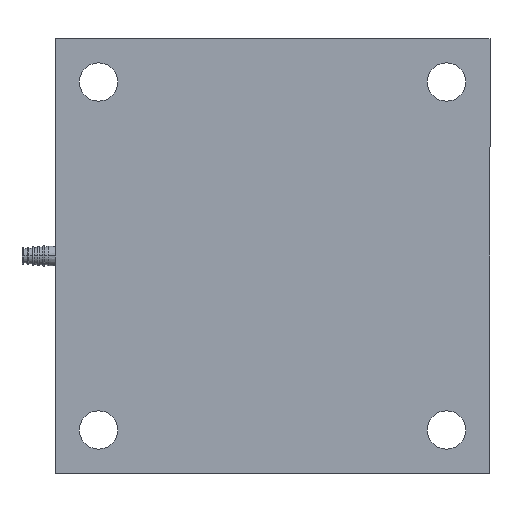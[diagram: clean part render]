
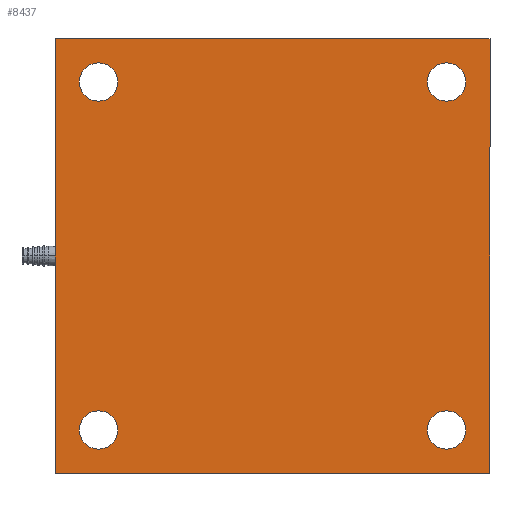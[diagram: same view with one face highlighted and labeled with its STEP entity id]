
A CAD part, front view. The second image highlights one B-rep face of the part: STEP entity #8437.
In plain terms, the highlighted planar face has unit normal (0, -1, 0).
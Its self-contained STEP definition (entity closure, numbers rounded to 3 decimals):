
#21 = DIRECTION ( 'NONE',  ( 0., 0., -1. ) ) ;
#50 = AXIS2_PLACEMENT_3D ( 'NONE', #7726, #6715, #6843 ) ;
#110 = EDGE_LOOP ( 'NONE', ( #8228, #5297 ) ) ;
#139 = LINE ( 'NONE', #12166, #4703 ) ;
#304 = DIRECTION ( 'NONE',  ( 0., 0., 1. ) ) ;
#320 = CARTESIAN_POINT ( 'NONE',  ( 125., 0., -125. ) ) ;
#393 = ORIENTED_EDGE ( 'NONE', *, *, #5112, .T. ) ;
#444 = CARTESIAN_POINT ( 'NONE',  ( 100., 0., -100. ) ) ;
#516 = PLANE ( 'NONE',  #4418 ) ;
#810 = ORIENTED_EDGE ( 'NONE', *, *, #8593, .F. ) ;
#955 = CIRCLE ( 'NONE', #50, 11. ) ;
#1062 = CIRCLE ( 'NONE', #9063, 11. ) ;
#1105 = DIRECTION ( 'NONE',  ( 0., -1., 0. ) ) ;
#1118 = CARTESIAN_POINT ( 'NONE',  ( 100., 0., -89. ) ) ;
#1221 = VECTOR ( 'NONE', #1843, 1000. ) ;
#1479 = VERTEX_POINT ( 'NONE', #12457 ) ;
#1513 = CARTESIAN_POINT ( 'NONE',  ( -100., 0., 111. ) ) ;
#1603 = LINE ( 'NONE', #13356, #13524 ) ;
#1758 = CARTESIAN_POINT ( 'NONE',  ( -125., 0., -125. ) ) ;
#1793 = ORIENTED_EDGE ( 'NONE', *, *, #5833, .F. ) ;
#1833 = DIRECTION ( 'NONE',  ( 0., 0., -1. ) ) ;
#1843 = DIRECTION ( 'NONE',  ( 0., 0., 1. ) ) ;
#1922 = VERTEX_POINT ( 'NONE', #1758 ) ;
#2427 = EDGE_CURVE ( 'NONE', #1479, #13991, #4500, .T. ) ;
#2801 = AXIS2_PLACEMENT_3D ( 'NONE', #444, #9991, #304 ) ;
#2860 = LINE ( 'NONE', #11674, #1221 ) ;
#2904 = CARTESIAN_POINT ( 'NONE',  ( -100., 0., -111. ) ) ;
#2914 = EDGE_CURVE ( 'NONE', #13991, #1479, #1062, .T. ) ;
#2994 = EDGE_CURVE ( 'NONE', #9442, #6975, #139, .T. ) ;
#3014 = CIRCLE ( 'NONE', #13073, 11. ) ;
#3346 = VERTEX_POINT ( 'NONE', #5775 ) ;
#3372 = CARTESIAN_POINT ( 'NONE',  ( -100., 0., -100. ) ) ;
#3436 = EDGE_CURVE ( 'NONE', #7507, #3995, #955, .T. ) ;
#3551 = DIRECTION ( 'NONE',  ( 1., 0., 0. ) ) ;
#3877 = EDGE_CURVE ( 'NONE', #3995, #7507, #10214, .T. ) ;
#3916 = ORIENTED_EDGE ( 'NONE', *, *, #7461, .F. ) ;
#3995 = VERTEX_POINT ( 'NONE', #6353 ) ;
#4132 = EDGE_LOOP ( 'NONE', ( #11531, #10647 ) ) ;
#4351 = CARTESIAN_POINT ( 'NONE',  ( -100., 0., -100. ) ) ;
#4418 = AXIS2_PLACEMENT_3D ( 'NONE', #4960, #7109, #9261 ) ;
#4500 = CIRCLE ( 'NONE', #8638, 11. ) ;
#4547 = VERTEX_POINT ( 'NONE', #13195 ) ;
#4611 = CARTESIAN_POINT ( 'NONE',  ( 100., 0., 100. ) ) ;
#4684 = LINE ( 'NONE', #7932, #5077 ) ;
#4699 = DIRECTION ( 'NONE',  ( 0., 0., -1. ) ) ;
#4703 = VECTOR ( 'NONE', #4699, 1000. ) ;
#4732 = DIRECTION ( 'NONE',  ( 0., -1., 0. ) ) ;
#4879 = FACE_BOUND ( 'NONE', #4132, .T. ) ;
#4960 = CARTESIAN_POINT ( 'NONE',  ( 0., 0., 0. ) ) ;
#5077 = VECTOR ( 'NONE', #12291, 1000. ) ;
#5112 = EDGE_CURVE ( 'NONE', #12353, #13181, #9425, .T. ) ;
#5297 = ORIENTED_EDGE ( 'NONE', *, *, #2914, .T. ) ;
#5528 = ORIENTED_EDGE ( 'NONE', *, *, #2994, .F. ) ;
#5563 = ORIENTED_EDGE ( 'NONE', *, *, #6951, .T. ) ;
#5775 = CARTESIAN_POINT ( 'NONE',  ( -125., 0., 125. ) ) ;
#5791 = CIRCLE ( 'NONE', #8083, 11. ) ;
#5833 = EDGE_CURVE ( 'NONE', #3346, #9442, #1603, .T. ) ;
#5964 = FACE_BOUND ( 'NONE', #9544, .T. ) ;
#6353 = CARTESIAN_POINT ( 'NONE',  ( -100., 0., 89. ) ) ;
#6486 = CIRCLE ( 'NONE', #2801, 11. ) ;
#6633 = CARTESIAN_POINT ( 'NONE',  ( -100., 0., 100. ) ) ;
#6715 = DIRECTION ( 'NONE',  ( 0., -1., 0. ) ) ;
#6843 = DIRECTION ( 'NONE',  ( 0., 0., -1. ) ) ;
#6915 = DIRECTION ( 'NONE',  ( 0., 0., -1. ) ) ;
#6951 = EDGE_CURVE ( 'NONE', #13181, #12353, #3014, .T. ) ;
#6975 = VERTEX_POINT ( 'NONE', #320 ) ;
#7021 = AXIS2_PLACEMENT_3D ( 'NONE', #6633, #1105, #21 ) ;
#7034 = EDGE_CURVE ( 'NONE', #6975, #1922, #4684, .T. ) ;
#7109 = DIRECTION ( 'NONE',  ( 0., -1., 0. ) ) ;
#7461 = EDGE_CURVE ( 'NONE', #10646, #4547, #6486, .T. ) ;
#7507 = VERTEX_POINT ( 'NONE', #1513 ) ;
#7669 = DIRECTION ( 'NONE',  ( 0., 1., 0. ) ) ;
#7726 = CARTESIAN_POINT ( 'NONE',  ( -100., 0., 100. ) ) ;
#7932 = CARTESIAN_POINT ( 'NONE',  ( -125., 0., -125. ) ) ;
#7989 = CARTESIAN_POINT ( 'NONE',  ( 125., 0., 125. ) ) ;
#8083 = AXIS2_PLACEMENT_3D ( 'NONE', #9111, #4732, #12479 ) ;
#8228 = ORIENTED_EDGE ( 'NONE', *, *, #2427, .T. ) ;
#8353 = EDGE_CURVE ( 'NONE', #4547, #10646, #5791, .T. ) ;
#8437 = ADVANCED_FACE ( 'NONE', ( #4879, #11181, #12331, #5964, #10322 ), #516, .T. ) ;
#8593 = EDGE_CURVE ( 'NONE', #1922, #3346, #2860, .T. ) ;
#8635 = ORIENTED_EDGE ( 'NONE', *, *, #7034, .F. ) ;
#8638 = AXIS2_PLACEMENT_3D ( 'NONE', #3372, #9899, #10690 ) ;
#8805 = ORIENTED_EDGE ( 'NONE', *, *, #8353, .F. ) ;
#8925 = DIRECTION ( 'NONE',  ( 0., 1., 0. ) ) ;
#9063 = AXIS2_PLACEMENT_3D ( 'NONE', #4351, #7669, #9395 ) ;
#9111 = CARTESIAN_POINT ( 'NONE',  ( 100., 0., -100. ) ) ;
#9261 = DIRECTION ( 'NONE',  ( 0., 0., -1. ) ) ;
#9373 = EDGE_LOOP ( 'NONE', ( #3916, #8805 ) ) ;
#9395 = DIRECTION ( 'NONE',  ( 0., 0., 1. ) ) ;
#9425 = CIRCLE ( 'NONE', #13749, 11. ) ;
#9442 = VERTEX_POINT ( 'NONE', #7989 ) ;
#9544 = EDGE_LOOP ( 'NONE', ( #393, #5563 ) ) ;
#9899 = DIRECTION ( 'NONE',  ( 0., 1., 0. ) ) ;
#9991 = DIRECTION ( 'NONE',  ( 0., -1., 0. ) ) ;
#10214 = CIRCLE ( 'NONE', #7021, 11. ) ;
#10322 = FACE_BOUND ( 'NONE', #9373, .T. ) ;
#10646 = VERTEX_POINT ( 'NONE', #1118 ) ;
#10647 = ORIENTED_EDGE ( 'NONE', *, *, #3877, .F. ) ;
#10658 = DIRECTION ( 'NONE',  ( 0., 1., 0. ) ) ;
#10690 = DIRECTION ( 'NONE',  ( 0., 0., 1. ) ) ;
#11181 = FACE_BOUND ( 'NONE', #110, .T. ) ;
#11531 = ORIENTED_EDGE ( 'NONE', *, *, #3436, .F. ) ;
#11674 = CARTESIAN_POINT ( 'NONE',  ( -125., 0., 125. ) ) ;
#12166 = CARTESIAN_POINT ( 'NONE',  ( 125., 0., 125. ) ) ;
#12243 = CARTESIAN_POINT ( 'NONE',  ( 100., 0., 89. ) ) ;
#12291 = DIRECTION ( 'NONE',  ( -1., 0., 0. ) ) ;
#12331 = FACE_OUTER_BOUND ( 'NONE', #13972, .T. ) ;
#12353 = VERTEX_POINT ( 'NONE', #13931 ) ;
#12457 = CARTESIAN_POINT ( 'NONE',  ( -100., 0., -89. ) ) ;
#12479 = DIRECTION ( 'NONE',  ( 0., 0., 1. ) ) ;
#12873 = CARTESIAN_POINT ( 'NONE',  ( 100., 0., 100. ) ) ;
#13073 = AXIS2_PLACEMENT_3D ( 'NONE', #4611, #8925, #6915 ) ;
#13181 = VERTEX_POINT ( 'NONE', #12243 ) ;
#13195 = CARTESIAN_POINT ( 'NONE',  ( 100., 0., -111. ) ) ;
#13356 = CARTESIAN_POINT ( 'NONE',  ( -125., 0., 125. ) ) ;
#13524 = VECTOR ( 'NONE', #3551, 1000. ) ;
#13749 = AXIS2_PLACEMENT_3D ( 'NONE', #12873, #10658, #1833 ) ;
#13931 = CARTESIAN_POINT ( 'NONE',  ( 100., 0., 111. ) ) ;
#13972 = EDGE_LOOP ( 'NONE', ( #810, #8635, #5528, #1793 ) ) ;
#13991 = VERTEX_POINT ( 'NONE', #2904 ) ;
